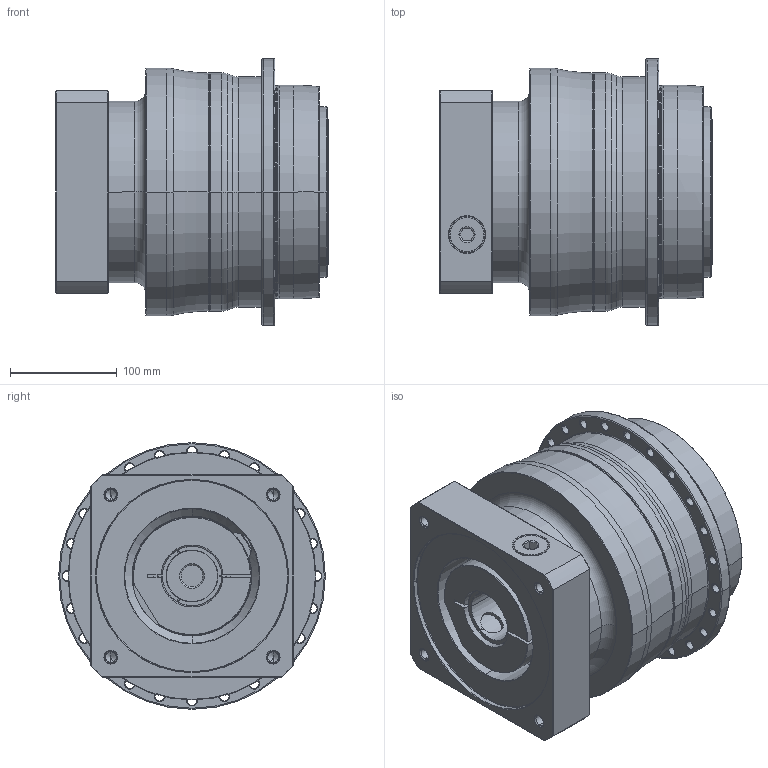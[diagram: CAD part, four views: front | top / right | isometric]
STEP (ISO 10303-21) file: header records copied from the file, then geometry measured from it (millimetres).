
FILE_DESCRIPTION((''),'2;1');
FILE_NAME('AP200_2ST_48-P0409B10201_ASM','2018-05-29T',('d01226'),(''),'PRO/ENGINEER BY PARAMETRIC TECHNOLOGY CORPORATION, 2008410','PRO/ENGINEER BY PARAMETRIC TECHNOLOGY CORPORATION, 2008410','');
FILE_SCHEMA(('CONFIG_CONTROL_DESIGN'));
Length unit declared in the file: millimetre
Products named in the file (9): P0278601003; P0359601103; P1317610601; P0503B00016; P0912556001; P1211600001; P0409B10201; 21711426021; AP200_2ST_48-P0409B10201_ASM
Assembly tree (8 placements, depth 2):
  AP200_2ST_48-P0409B10201_ASM
    P0278601003
    P0359601103
    P1317610601
    P0503B00016
    P0912556001
    P1211600001
    P0409B10201
    21711426021
Bounding box: 255 x 249.5 x 249.5 mm (x, y, z)
Volume: 7715166.2 mm3; surface area: 645825.6 mm2
Topology: 9 solids, 34 shells, 643 faces, 1547 edges, 958 vertices
Faces by surface type: cylinder 273, cone 176, plane 108, torus 72, bspline 14
Entity records: 24127 total; most frequent: CARTESIAN_POINT 8352, DIRECTION 3617, ORIENTED_EDGE 2976, AXIS2_PLACEMENT_3D 1552, EDGE_CURVE 1539, VERTEX_POINT 958, CIRCLE 896, EDGE_LOOP 783
